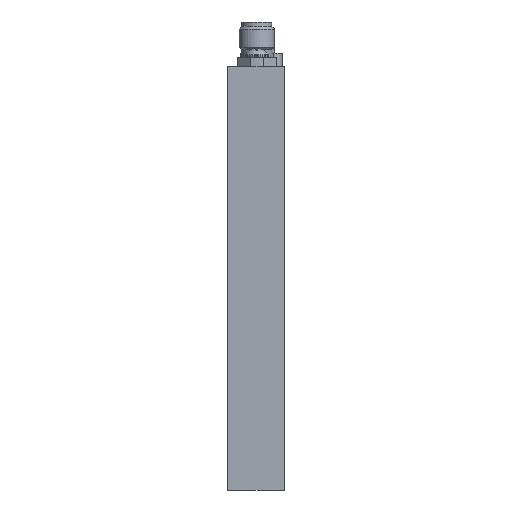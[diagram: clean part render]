
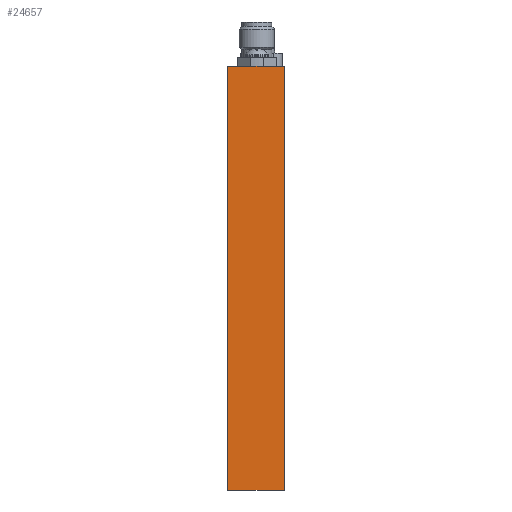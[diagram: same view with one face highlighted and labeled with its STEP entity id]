
A CAD part, left-side view. The second image highlights one B-rep face of the part: STEP entity #24657.
In plain terms, the highlighted planar face has unit normal (-1, 0, 0).
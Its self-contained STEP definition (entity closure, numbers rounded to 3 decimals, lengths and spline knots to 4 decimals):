
#2084 = DIRECTION ( 'NONE',  ( 1., 0., 0. ) ) ;
#2176 = CARTESIAN_POINT ( 'NONE',  ( -0.0603, 1.1479, 0.9858 ) ) ;
#2951 = EDGE_LOOP ( 'NONE', ( #33462, #36397, #20988, #6597 ) ) ;
#4391 = VERTEX_POINT ( 'NONE', #18087 ) ;
#6597 = ORIENTED_EDGE ( 'NONE', *, *, #33432, .T. ) ;
#8521 = EDGE_CURVE ( 'NONE', #13795, #23204, #35120, .T. ) ;
#9824 = CARTESIAN_POINT ( 'NONE',  ( -0.0603, 1.5479, 0.9858 ) ) ;
#10840 = PLANE ( 'NONE',  #15280 ) ;
#12361 = DIRECTION ( 'NONE',  ( 0., -1., 0. ) ) ;
#12904 = DIRECTION ( 'NONE',  ( 0., 0., 1. ) ) ;
#12943 = CARTESIAN_POINT ( 'NONE',  ( -0.0603, 1.4491, 0.9858 ) ) ;
#13226 = LINE ( 'NONE', #27132, #34013 ) ;
#13795 = VERTEX_POINT ( 'NONE', #34547 ) ;
#15084 = CARTESIAN_POINT ( 'NONE',  ( -0.0603, 1.4491, 3.9858 ) ) ;
#15174 = EDGE_CURVE ( 'NONE', #25145, #23204, #13226, .T. ) ;
#15280 = AXIS2_PLACEMENT_3D ( 'NONE', #16786, #2084, #22327 ) ;
#15530 = DIRECTION ( 'NONE',  ( 0., 0., 1. ) ) ;
#16786 = CARTESIAN_POINT ( 'NONE',  ( -0.0603, 1.4491, 0.9858 ) ) ;
#17558 = DIRECTION ( 'NONE',  ( 0., -1., 0. ) ) ;
#18087 = CARTESIAN_POINT ( 'NONE',  ( -0.0603, 1.5479, 0.9858 ) ) ;
#19035 = VECTOR ( 'NONE', #12361, 39.3701 ) ;
#20988 = ORIENTED_EDGE ( 'NONE', *, *, #34778, .F. ) ;
#21690 = LINE ( 'NONE', #9824, #36752 ) ;
#21719 = VECTOR ( 'NONE', #17558, 39.3701 ) ;
#22327 = DIRECTION ( 'NONE',  ( 0., 0., -1. ) ) ;
#22591 = CARTESIAN_POINT ( 'NONE',  ( -0.0603, 1.1479, 3.9858 ) ) ;
#23204 = VERTEX_POINT ( 'NONE', #22591 ) ;
#24657 = ADVANCED_FACE ( 'NONE', ( #25524 ), #10840, .F. ) ;
#25145 = VERTEX_POINT ( 'NONE', #2176 ) ;
#25524 = FACE_OUTER_BOUND ( 'NONE', #2951, .T. ) ;
#27132 = CARTESIAN_POINT ( 'NONE',  ( -0.0603, 1.1479, 0.9858 ) ) ;
#30284 = LINE ( 'NONE', #12943, #19035 ) ;
#33432 = EDGE_CURVE ( 'NONE', #4391, #25145, #30284, .T. ) ;
#33462 = ORIENTED_EDGE ( 'NONE', *, *, #15174, .T. ) ;
#34013 = VECTOR ( 'NONE', #15530, 39.3701 ) ;
#34547 = CARTESIAN_POINT ( 'NONE',  ( -0.0603, 1.5479, 3.9858 ) ) ;
#34778 = EDGE_CURVE ( 'NONE', #4391, #13795, #21690, .T. ) ;
#35120 = LINE ( 'NONE', #15084, #21719 ) ;
#36397 = ORIENTED_EDGE ( 'NONE', *, *, #8521, .F. ) ;
#36752 = VECTOR ( 'NONE', #12904, 39.3701 ) ;
